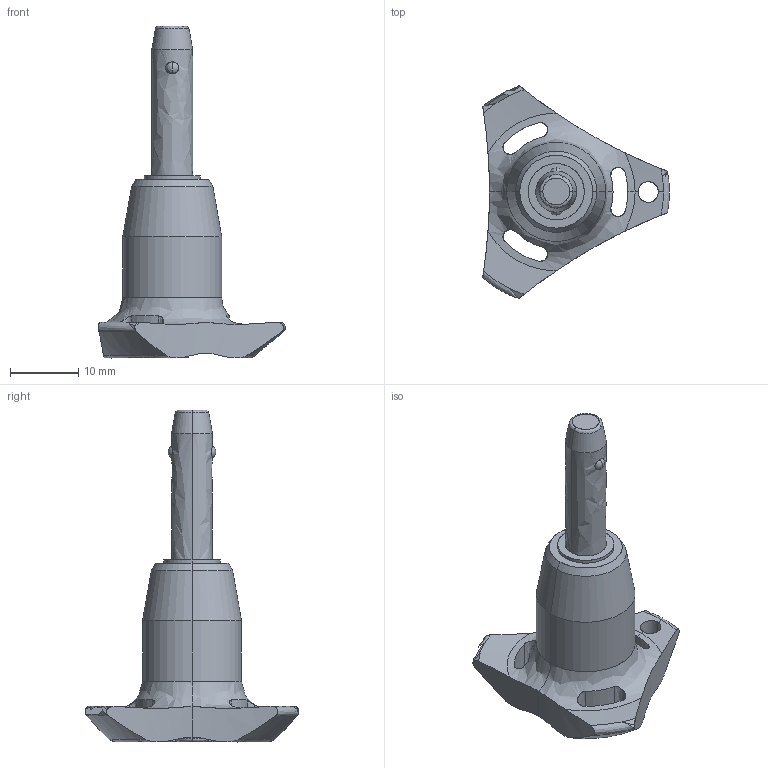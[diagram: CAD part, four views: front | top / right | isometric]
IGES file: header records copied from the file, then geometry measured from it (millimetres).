
Start section: SolidWorks IGES file using analytic representation for surfaces
Global section: file name: C:\Users\ianosborn\Desktop\QR1724_v2\QR1724_v2_20251112_IGES\QR1724.M06-015-S.igs; native system: SolidWorks 2019; preprocessor: SolidWorks 2019; author: IanOsborn; date: 251112.124508; units: millimetre
Bounding box: 27.4 x 31.31 x 48.7 mm (x, y, z)
Surface area: 2835.6 mm2 (no closed solid volume)
Topology: 0 solids, 0 shells, 66 faces, 1251 edges, 1232 vertices
Faces by surface type: revolution 50, bspline 16
